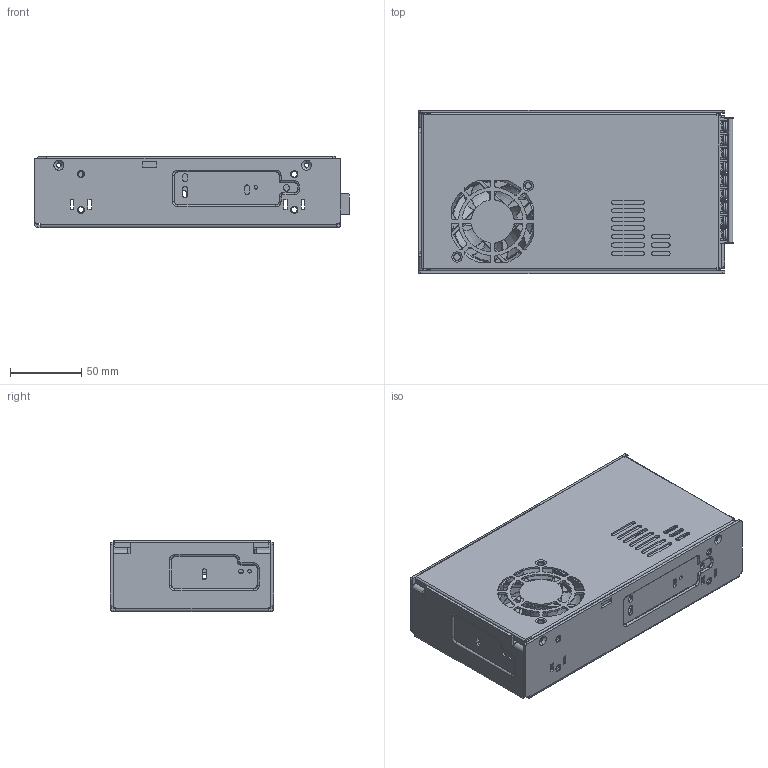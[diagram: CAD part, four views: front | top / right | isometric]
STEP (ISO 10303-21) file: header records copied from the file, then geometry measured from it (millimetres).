
FILE_DESCRIPTION((''),'2;1');
FILE_NAME('PMT-4V_5V350W1AN_PMT-36V_48V350_ASM','2020-12-15T',('EUNICE.HUANG'),(''),'PRO/ENGINEER BY PARAMETRIC TECHNOLOGY CORPORATION, 2015240','PRO/ENGINEER BY PARAMETRIC TECHNOLOGY CORPORATION, 2015240','');
FILE_SCHEMA(('AUTOMOTIVE_DESIGN { 1 0 10303 214 1 1 1 1 }'));
Products named in the file (37): MANIFOLD_SOLID_BREP_12608_1; MANIFOLD_SOLID_BREP_12763; CHASSIS_AF0_1_ASM_ASM_ASM_ASM_A_ASM; CHASSIS-STANDOFF_1; CHASSIS-STANDOFF-1_1; CHASSIS_ASM_1_ASM_ASM_ASM_ASM_A_ASM; PWB_2_25_2013_1; SWITCH_1; MANIFOLD_SOLID_BREP_41186; MANIFOLD_SOLID_BREP_41274; LED_HOLDER_1_ASM_ASM_ASM_ASM_AS_ASM; 3105325300-L8_1; 1_1; 2_1; 3_1; 4_1; 5_1; 6_1; 7_1; 8_1; 9_1; 10_1; T14-EO3109A301_ASM_1_ASM_ASM_AS_ASM; BOX1_1; VR132_1; COVER_PMT-5V350W1AG_1; 6020KUANG_48_1; 6020XIN_YE_29_4_1; 6020_ASM_6_ASM_1_ASM_ASM_ASM_AS_ASM; 6020_ASM_ASM_1_ASM_ASM_ASM_ASM__ASM; CASE_ASM_1_ASM_ASM_ASM_ASM_ASM_ASM; PMT-5V35W1AG_ASM_ASM_ASM_ASM_AS_ASM; PMT-4V_5V_36V_48V350W1AG_ASM_AS_ASM; ASM0017_ASM_ASM_ASM; ASM0001_ASM_ASM; ASM0001_ASM; PMT-4V_5V350W1AN_PMT-36V_48V350_ASM
Assembly tree (45 placements, depth 10):
  PMT-4V_5V350W1AN_PMT-36V_48V350_ASM
    ASM0001_ASM
      ASM0001_ASM_ASM
        ASM0017_ASM_ASM_ASM
          PMT-4V_5V_36V_48V350W1AG_ASM_AS_ASM
            PMT-5V35W1AG_ASM_ASM_ASM_ASM_AS_ASM
              CASE_ASM_1_ASM_ASM_ASM_ASM_ASM_ASM
                CHASSIS_ASM_1_ASM_ASM_ASM_ASM_A_ASM
                  CHASSIS_AF0_1_ASM_ASM_ASM_ASM_A_ASM
                  CHASSIS-STANDOFF_1  x2
                  CHASSIS-STANDOFF-1_1  x3
                PWB_2_25_2013_1
                SWITCH_1
                LED_HOLDER_1_ASM_ASM_ASM_ASM_AS_ASM
                  MANIFOLD_SOLID_BREP_41186
                  MANIFOLD_SOLID_BREP_41274
                3105325300-L8_1  x5
                T14-EO3109A301_ASM_1_ASM_ASM_AS_ASM
                  1_1
                  2_1
                  3_1
                  4_1
                  5_1
                  6_1
                  7_1
                  8_1
                  9_1
                  10_1
                BOX1_1  x3
                VR132_1
                COVER_PMT-5V350W1AG_1
                6020_ASM_ASM_1_ASM_ASM_ASM_ASM__ASM
                  6020_ASM_6_ASM_1_ASM_ASM_ASM_AS_ASM
Bounding box: 221.2 x 115 x 50 mm (x, y, z)
Volume: 200723.9 mm3; surface area: 247277.3 mm2
Topology: 33 solids, 35 shells, 3083 faces, 8684 edges, 5734 vertices
Faces by surface type: plane 1588, cylinder 1033, bspline 193, torus 169, cone 84, extrusion 14, sphere 2
Entity records: 114186 total; most frequent: CARTESIAN_POINT 41020, ORIENTED_EDGE 15628, DIRECTION 14137, EDGE_CURVE 7814, VERTEX_POINT 5162, AXIS2_PLACEMENT_3D 4855, VECTOR 4427, LINE 4413
